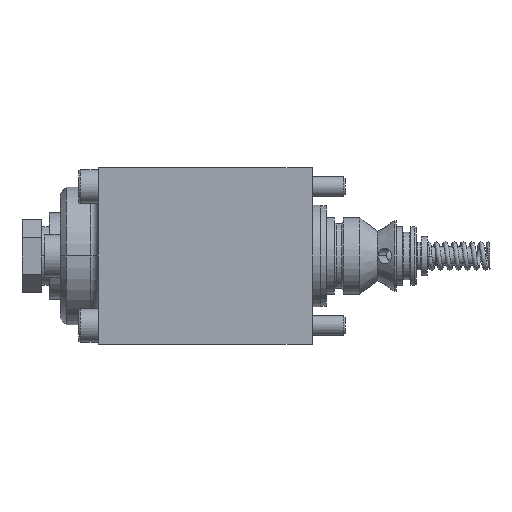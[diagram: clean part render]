
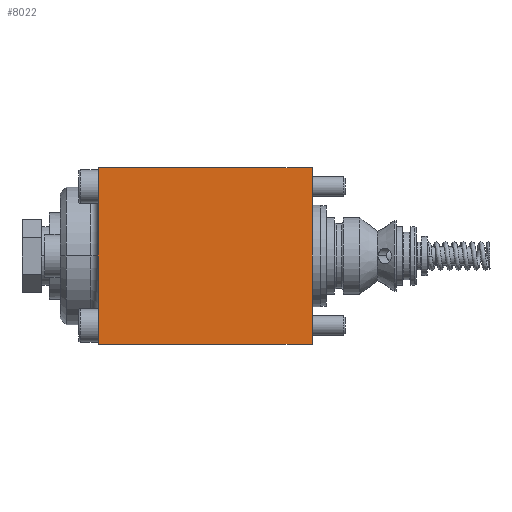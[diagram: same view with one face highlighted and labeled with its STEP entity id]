
A CAD part, front view. The second image highlights one B-rep face of the part: STEP entity #8022.
In plain terms, the highlighted planar face has unit normal (0, -1, 0).
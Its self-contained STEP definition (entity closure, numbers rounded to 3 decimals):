
#173 = CARTESIAN_POINT ( 'NONE',  ( -2.2, -22.5, 22.5 ) ) ;
#179 = DIRECTION ( 'NONE',  ( 0., 0., -1. ) ) ;
#672 = EDGE_LOOP ( 'NONE', ( #7087, #3731, #6825, #2484 ) ) ;
#1751 = EDGE_CURVE ( 'NONE', #3307, #1824, #11768, .T. ) ;
#1824 = VERTEX_POINT ( 'NONE', #4832 ) ;
#1875 = CARTESIAN_POINT ( 'NONE',  ( -56.7, -22.5, -22.5 ) ) ;
#1879 = EDGE_CURVE ( 'NONE', #12225, #12298, #2380, .T. ) ;
#2189 = CARTESIAN_POINT ( 'NONE',  ( -56.7, -22.5, 22.5 ) ) ;
#2380 = LINE ( 'NONE', #12088, #8173 ) ;
#2484 = ORIENTED_EDGE ( 'NONE', *, *, #9452, .F. ) ;
#2945 = CARTESIAN_POINT ( 'NONE',  ( 61.44, -22.5, 22.5 ) ) ;
#3307 = VERTEX_POINT ( 'NONE', #173 ) ;
#3731 = ORIENTED_EDGE ( 'NONE', *, *, #4741, .T. ) ;
#3854 = PLANE ( 'NONE',  #8147 ) ;
#4189 = CARTESIAN_POINT ( 'NONE',  ( 61.44, -22.5, -22.5 ) ) ;
#4741 = EDGE_CURVE ( 'NONE', #3307, #12298, #5853, .T. ) ;
#4832 = CARTESIAN_POINT ( 'NONE',  ( -2.2, -22.5, -22.5 ) ) ;
#5097 = DIRECTION ( 'NONE',  ( -1., 0., 0. ) ) ;
#5853 = LINE ( 'NONE', #2945, #7355 ) ;
#6825 = ORIENTED_EDGE ( 'NONE', *, *, #1879, .F. ) ;
#7031 = DIRECTION ( 'NONE',  ( 0., 0., 1. ) ) ;
#7087 = ORIENTED_EDGE ( 'NONE', *, *, #1751, .F. ) ;
#7355 = VECTOR ( 'NONE', #5097, 1000. ) ;
#7360 = VECTOR ( 'NONE', #11119, 1000. ) ;
#7699 = CARTESIAN_POINT ( 'NONE',  ( 61.44, -22.5, -22.5 ) ) ;
#8022 = ADVANCED_FACE ( 'NONE', ( #9601 ), #3854, .T. ) ;
#8029 = LINE ( 'NONE', #4189, #7360 ) ;
#8147 = AXIS2_PLACEMENT_3D ( 'NONE', #7699, #12445, #11558 ) ;
#8173 = VECTOR ( 'NONE', #7031, 1000. ) ;
#8778 = VECTOR ( 'NONE', #179, 1000. ) ;
#9452 = EDGE_CURVE ( 'NONE', #1824, #12225, #8029, .T. ) ;
#9601 = FACE_OUTER_BOUND ( 'NONE', #672, .T. ) ;
#9886 = CARTESIAN_POINT ( 'NONE',  ( -2.2, -22.5, -22.5 ) ) ;
#11119 = DIRECTION ( 'NONE',  ( -1., 0., 0. ) ) ;
#11558 = DIRECTION ( 'NONE',  ( 1., 0., 0. ) ) ;
#11768 = LINE ( 'NONE', #9886, #8778 ) ;
#12088 = CARTESIAN_POINT ( 'NONE',  ( -56.7, -22.5, -22.5 ) ) ;
#12225 = VERTEX_POINT ( 'NONE', #1875 ) ;
#12298 = VERTEX_POINT ( 'NONE', #2189 ) ;
#12445 = DIRECTION ( 'NONE',  ( 0., -1., 0. ) ) ;
